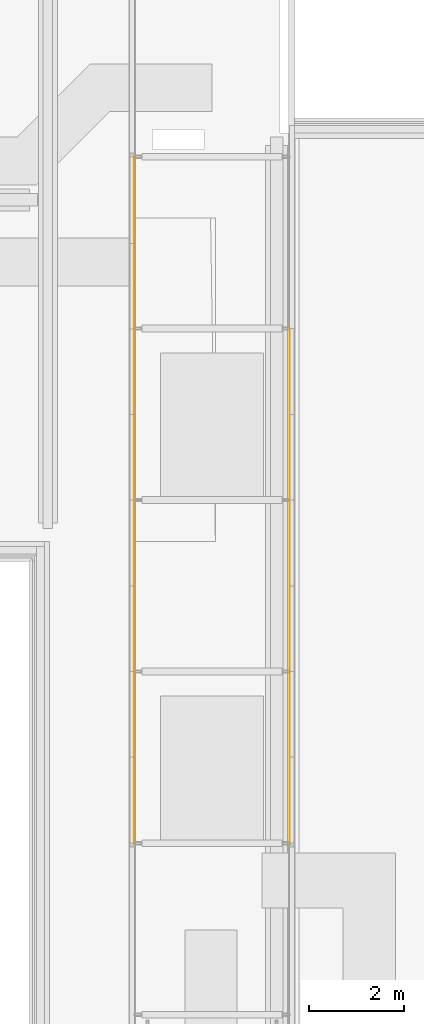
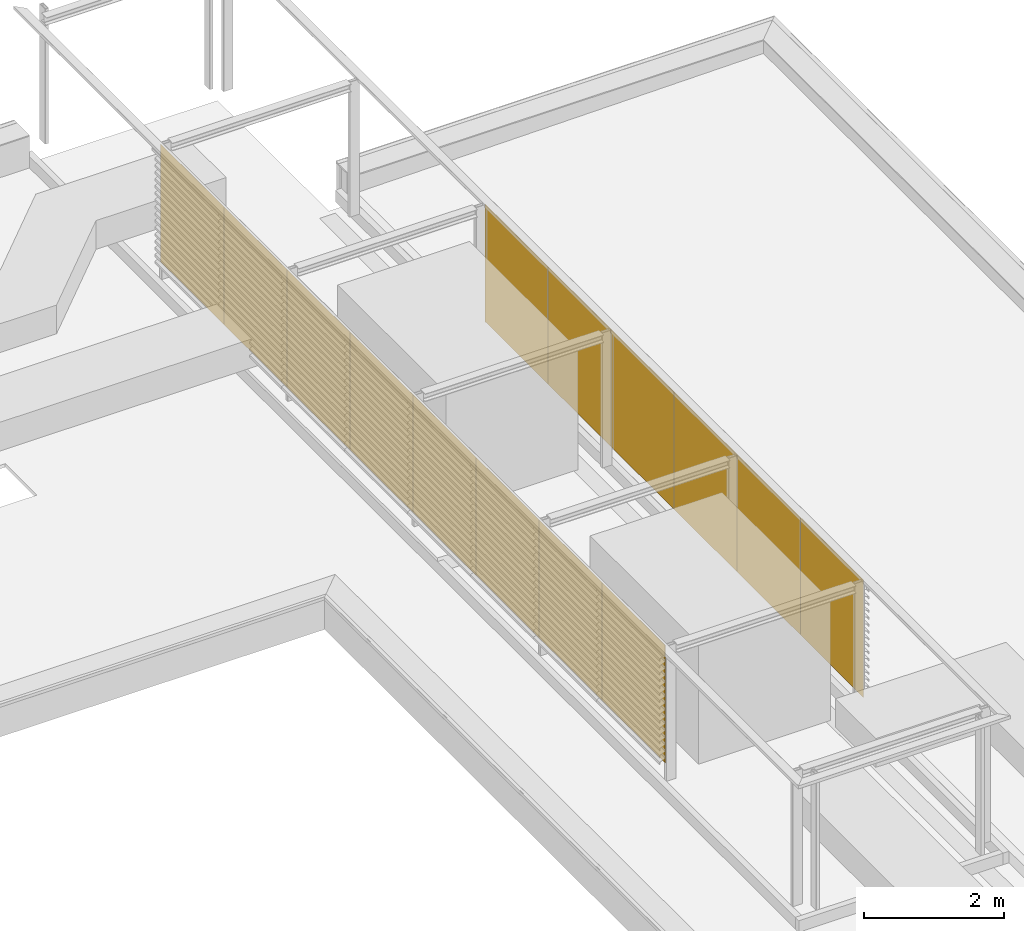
# One storey, part 20 of 32: 14 curtain walls, 4 elements without a shape of their own.
"""IFC2X3 building model written with IfcOpenShell, lengths in millimetres."""

from ifc_helpers import new_model, entity, si_unit, converted_unit, derived_unit, direction, frame, frame_2d, origin, origin_2d_with_axis, place, context, subcontext, project, spatial, rectangle, extrude, material, layer, layer_set, layer_usage, type_object, element, aggregate, save


model = new_model("IFC2X3")

# Units and contexts
model_context = context("Model", 3, precision=0.01, world=origin(), true_north=direction((6.123031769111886e-17, 1.0)))
body_context = subcontext(model_context, "Body", "Model", "MODEL_VIEW")
ifc_project = project(units=[si_unit("LENGTHUNIT", "METRE", prefix="MILLI"), si_unit("AREAUNIT", "SQUARE_METRE"), si_unit("VOLUMEUNIT", "CUBIC_METRE"), converted_unit("PLANEANGLEUNIT", "DEGREE", entity("IfcRatioMeasure", 0.017453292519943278), si_unit("PLANEANGLEUNIT", "RADIAN"), dimensions=[0, 0, 0, 0, 0, 0, 0]), si_unit("MASSUNIT", "GRAM", prefix="KILO"), derived_unit("MASSDENSITYUNIT", [(si_unit("MASSUNIT", "GRAM", prefix="KILO"), 1), (si_unit("LENGTHUNIT", "METRE"), -3)]), derived_unit("IONCONCENTRATIONUNIT", [(si_unit("MASSUNIT", "GRAM", prefix="KILO"), 1), (si_unit("LENGTHUNIT", "METRE"), -3)]), derived_unit("MOMENTOFINERTIAUNIT", [(si_unit("LENGTHUNIT", "METRE"), 4)]), si_unit("TIMEUNIT", "SECOND"), si_unit("FREQUENCYUNIT", "HERTZ"), si_unit("THERMODYNAMICTEMPERATUREUNIT", "DEGREE_CELSIUS"), derived_unit("THERMALTRANSMITTANCEUNIT", [(si_unit("MASSUNIT", "GRAM", prefix="KILO"), 1), (si_unit("THERMODYNAMICTEMPERATUREUNIT", "KELVIN"), -1), (si_unit("TIMEUNIT", "SECOND"), -3)]), derived_unit("THERMALCONDUCTANCEUNIT", [(si_unit("MASSUNIT", "GRAM", prefix="KILO"), 1), (si_unit("THERMODYNAMICTEMPERATUREUNIT", "KELVIN"), -1), (si_unit("TIMEUNIT", "SECOND"), -3), (si_unit("LENGTHUNIT", "METRE"), 1)]), derived_unit("VOLUMETRICFLOWRATEUNIT", [(si_unit("LENGTHUNIT", "METRE"), 3), (si_unit("TIMEUNIT", "SECOND"), -1)]), derived_unit("MASSFLOWRATEUNIT", [(si_unit("MASSUNIT", "GRAM", prefix="KILO"), 1), (si_unit("TIMEUNIT", "SECOND"), -1)]), derived_unit("ROTATIONALFREQUENCYUNIT", [(si_unit("TIMEUNIT", "SECOND"), -1)]), si_unit("ELECTRICCURRENTUNIT", "AMPERE"), si_unit("ELECTRICVOLTAGEUNIT", "VOLT"), si_unit("POWERUNIT", "WATT"), si_unit("FORCEUNIT", "NEWTON", prefix="KILO"), si_unit("ILLUMINANCEUNIT", "LUX"), si_unit("LUMINOUSFLUXUNIT", "LUMEN"), si_unit("LUMINOUSINTENSITYUNIT", "CANDELA"), derived_unit("USERDEFINED", [(si_unit("MASSUNIT", "GRAM", prefix="KILO"), -1), (si_unit("LENGTHUNIT", "METRE"), -2), (si_unit("TIMEUNIT", "SECOND"), 3), (si_unit("LUMINOUSFLUXUNIT", "LUMEN"), 1)]), derived_unit("USERDEFINED", [(si_unit("MASSUNIT", "GRAM", prefix="KILO"), 1), (si_unit("TIMEUNIT", "SECOND"), -3), (si_unit("LENGTHUNIT", "METRE"), 3), (si_unit("ELECTRICCURRENTUNIT", "AMPERE"), -2)]), derived_unit("SOUNDPOWERUNIT", [(si_unit("MASSUNIT", "GRAM", prefix="KILO"), 1), (si_unit("TIMEUNIT", "SECOND"), -3), (si_unit("LENGTHUNIT", "METRE"), 2)]), derived_unit("SOUNDPRESSUREUNIT", [(si_unit("MASSUNIT", "GRAM", prefix="KILO"), 1), (si_unit("LENGTHUNIT", "METRE"), -1), (si_unit("TIMEUNIT", "SECOND"), -2)]), derived_unit("LINEARVELOCITYUNIT", [(si_unit("LENGTHUNIT", "METRE"), 1), (si_unit("TIMEUNIT", "SECOND"), -1)]), si_unit("PRESSUREUNIT", "PASCAL"), derived_unit("USERDEFINED", [(si_unit("MASSUNIT", "GRAM", prefix="KILO"), 1), (si_unit("LENGTHUNIT", "METRE"), -2), (si_unit("TIMEUNIT", "SECOND"), -2)]), derived_unit("LINEARFORCEUNIT", [(si_unit("MASSUNIT", "GRAM", prefix="KILO"), 1), (si_unit("TIMEUNIT", "SECOND"), -2)]), derived_unit("PLANARFORCEUNIT", [(si_unit("MASSUNIT", "GRAM", prefix="KILO"), 1), (si_unit("LENGTHUNIT", "METRE"), -1), (si_unit("TIMEUNIT", "SECOND"), -2)]), derived_unit("SPECIFICHEATCAPACITYUNIT", [(si_unit("THERMODYNAMICTEMPERATUREUNIT", "KELVIN"), -1), (si_unit("LENGTHUNIT", "METRE"), 2), (si_unit("TIMEUNIT", "SECOND"), -2)]), derived_unit("HEATINGVALUEUNIT", [(si_unit("LENGTHUNIT", "METRE"), 2), (si_unit("TIMEUNIT", "SECOND"), -2)]), derived_unit("VAPORPERMEABILITYUNIT", [(si_unit("LENGTHUNIT", "METRE"), -1), (si_unit("TIMEUNIT", "SECOND"), 1)]), derived_unit("DYNAMICVISCOSITYUNIT", [(si_unit("MASSUNIT", "GRAM", prefix="KILO"), 1), (si_unit("TIMEUNIT", "SECOND"), -1), (si_unit("LENGTHUNIT", "METRE"), -1)]), derived_unit("THERMALEXPANSIONCOEFFICIENTUNIT", [(si_unit("THERMODYNAMICTEMPERATUREUNIT", "KELVIN"), -1)]), derived_unit("MODULUSOFELASTICITYUNIT", [(si_unit("MASSUNIT", "GRAM", prefix="KILO"), 1), (si_unit("LENGTHUNIT", "METRE"), -1), (si_unit("TIMEUNIT", "SECOND"), -2)]), derived_unit("ISOTHERMALMOISTURECAPACITYUNIT", [(si_unit("LENGTHUNIT", "METRE"), 3), (si_unit("MASSUNIT", "GRAM", prefix="KILO"), -1)]), derived_unit("MOISTUREDIFFUSIVITYUNIT", [(si_unit("TIMEUNIT", "SECOND"), -1), (si_unit("LENGTHUNIT", "METRE"), 2)])], contexts=[model_context])

# Site, building, storey
site_placement = place(None, frame((0.0, 300.0, 0.0)))
site = spatial("IfcSite", under=ifc_project, at=site_placement, Name="<Kadastrale nummers>", CompositionType="ELEMENT")
building_placement = place(site_placement, origin())
building = spatial("IfcBuilding", under=site, at=building_placement, CompositionType="ELEMENT")
storey_placement = place(building_placement, frame((0.0, 0.0, 7150.000035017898)))
storey = spatial("IfcBuildingStorey", under=building, at=storey_placement, Name="02 tweede verdieping", CompositionType="ELEMENT", Elevation=7150.000035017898)

# Curtain walls
curtain_wall_type_1 = type_object("IfcCurtainWallType", Name="Curtain Wall:NLRS_21_CWA_lamellenwand Linius - L.120 met LD.0065_Storax", PredefinedType="NOTDEFINED")
curtain_wall_1_placement = place(storey_placement, frame((0.0, 0.0, -7150.000035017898)))
curtain_wall_1 = element("IfcCurtainWall", 1, at=curtain_wall_1_placement, inside=storey, type_object=curtain_wall_type_1, Name="Curtain Wall:NLRS_21_CWA_lamellenwand Linius - L.120 met LD.0065_Storax", ObjectType="Curtain Wall:NLRS_21_CWA_lamellenwand Linius - L.120 met LD.0065_Storax")
ifc_material = material(Name="STAAL_RAL 7006")
ifc_layer = layer(ifc_material, 2.0)
ifc_layer_set = layer_set([ifc_layer], Name="Basic Wall:NLRS_21_WA_lamellenwand Linius - L.120_Storax")
ifc_layer_usage_1 = layer_usage(ifc_layer_set, "AXIS2", "POSITIVE", -1.0)
curtain_wall_type_2 = type_object("IfcCurtainWallType", Name="Basic Wall:NLRS_21_WA_lamellenwand Linius - L.120_Storax", PredefinedType="NOTDEFINED", material=ifc_layer_set)
curtain_wall_2_placement = place(storey_placement, frame((41676.0, 38995.0, 500.0), z_axis=(0.0, 0.0, 1.0), x_axis=(0.0, 1.0, 0.0)))
curtain_wall_2 = element("IfcCurtainWall", 2, at=curtain_wall_2_placement, type_object=curtain_wall_type_2, material=ifc_layer_usage_1, Name="Basic Wall:NLRS_21_WA_lamellenwand Linius - L.120_Storax", ObjectType="Basic Wall:NLRS_21_WA_lamellenwand Linius - L.120_Storax", context=body_context, shape_type="SweptSolid", body=[
    extrude(rectangle(XDim=1.9999999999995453, YDim=1802.5000000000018, at=frame_2d((0.0, 2.2168933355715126e-12), x_axis=(1.0, 0.0))), frame((901.2500000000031, 0.0, 0.0), z_axis=(0.0, 0.0, 1.0), x_axis=(0.0, 1.0, 0.0)), (0.0, 0.0, 1.0), 2049.999964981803),
])
curtain_wall_3_placement = place(storey_placement, frame((41676.0, 40797.49999999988, 500.0), z_axis=(0.0, 0.0, 1.0), x_axis=(0.0, 1.0, 0.0)))
curtain_wall_3 = element("IfcCurtainWall", 3, at=curtain_wall_3_placement, type_object=curtain_wall_type_2, material=ifc_layer_usage_1, Name="Basic Wall:NLRS_21_WA_lamellenwand Linius - L.120_Storax", ObjectType="Basic Wall:NLRS_21_WA_lamellenwand Linius - L.120_Storax", context=body_context, shape_type="SweptSolid", body=[
    extrude(rectangle(XDim=1.9999999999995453, YDim=1802.4999999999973, at=origin_2d_with_axis()), frame((901.2499999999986, 0.0, 0.0), z_axis=(0.0, 0.0, 1.0), x_axis=(0.0, 1.0, 0.0)), (0.0, 0.0, 1.0), 2049.999964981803),
])
aggregate(curtain_wall_1, [curtain_wall_2, curtain_wall_3])

curtain_wall_4_placement = place(storey_placement, frame((0.0, 0.0, -7150.000035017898)))
curtain_wall_4 = element("IfcCurtainWall", 4, at=curtain_wall_4_placement, inside=storey, type_object=curtain_wall_type_1, Name="Curtain Wall:NLRS_21_CWA_lamellenwand Linius - L.120 met LD.0065_Storax", ObjectType="Curtain Wall:NLRS_21_CWA_lamellenwand Linius - L.120 met LD.0065_Storax")
ifc_layer_usage_2 = layer_usage(ifc_layer_set, "AXIS2", "NEGATIVE", 1.0)
curtain_wall_5_placement = place(storey_placement, frame((41676.0, 38995.0, 500.0), z_axis=(0.0, 0.0, 1.0), x_axis=(0.0, -1.0, 0.0)))
curtain_wall_5 = element("IfcCurtainWall", 5, at=curtain_wall_5_placement, type_object=curtain_wall_type_2, material=ifc_layer_usage_2, Name="Basic Wall:NLRS_21_WA_lamellenwand Linius - L.120_Storax", ObjectType="Basic Wall:NLRS_21_WA_lamellenwand Linius - L.120_Storax", context=body_context, shape_type="SweptSolid", body=[
    extrude(rectangle(XDim=1.9999999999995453, YDim=1797.5000001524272, at=frame_2d((0.0, 2.1600499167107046e-12), x_axis=(1.0, 0.0))), frame((898.7500000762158, 0.0, 0.0), z_axis=(0.0, 0.0, 1.0), x_axis=(0.0, 1.0, 0.0)), (0.0, 0.0, 1.0), 2049.999964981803),
])
curtain_wall_6_placement = place(storey_placement, frame((41676.0, 37197.49999984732, 500.0), z_axis=(0.0, 0.0, 1.0), x_axis=(0.0, -1.0, 0.0)))
curtain_wall_6 = element("IfcCurtainWall", 6, at=curtain_wall_6_placement, type_object=curtain_wall_type_2, material=ifc_layer_usage_2, Name="Basic Wall:NLRS_21_WA_lamellenwand Linius - L.120_Storax", ObjectType="Basic Wall:NLRS_21_WA_lamellenwand Linius - L.120_Storax", context=body_context, shape_type="SweptSolid", body=[
    extrude(rectangle(XDim=1.9999999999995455, YDim=1797.499999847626, at=frame_2d((-4.331535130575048e-12, 4.376943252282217e-12), x_axis=(1.0, 0.0))), frame((898.7499999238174, 0.0, 0.0), z_axis=(0.0, 0.0, 1.0), x_axis=(0.0, 1.0, 0.0)), (0.0, 0.0, 1.0), 2049.999964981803),
])
curtain_wall_7_placement = place(storey_placement, frame((41676.0, 35400.0, 500.0), z_axis=(0.0, 0.0, 1.0), x_axis=(0.0, -1.0, 0.0)))
curtain_wall_7 = element("IfcCurtainWall", 7, at=curtain_wall_7_placement, type_object=curtain_wall_type_2, material=ifc_layer_usage_2, Name="Basic Wall:NLRS_21_WA_lamellenwand Linius - L.120_Storax", ObjectType="Basic Wall:NLRS_21_WA_lamellenwand Linius - L.120_Storax", context=body_context, shape_type="SweptSolid", body=[
    extrude(rectangle(XDim=1.9999999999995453, YDim=1797.4999998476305, at=frame_2d((0.0, -2.1600499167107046e-12), x_axis=(1.0, 0.0))), frame((898.7499999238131, 0.0, 0.0), z_axis=(0.0, 0.0, 1.0), x_axis=(0.0, 1.0, 0.0)), (0.0, 0.0, 1.0), 2049.999964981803),
])
curtain_wall_8_placement = place(storey_placement, frame((41676.0, 33602.50000015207, 500.0), z_axis=(0.0, 0.0, 1.0), x_axis=(0.0, -1.0, 0.0)))
curtain_wall_8 = element("IfcCurtainWall", 8, at=curtain_wall_8_placement, type_object=curtain_wall_type_2, material=ifc_layer_usage_2, Name="Basic Wall:NLRS_21_WA_lamellenwand Linius - L.120_Storax", ObjectType="Basic Wall:NLRS_21_WA_lamellenwand Linius - L.120_Storax", context=body_context, shape_type="SweptSolid", body=[
    extrude(rectangle(XDim=1.9999999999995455, YDim=1797.5000001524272, at=frame_2d((-4.331535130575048e-12, 2.1600499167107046e-12), x_axis=(1.0, 0.0))), frame((898.7500000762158, 0.0, 0.0), z_axis=(0.0, 0.0, 1.0), x_axis=(0.0, 1.0, 0.0)), (0.0, 0.0, 1.0), 2049.999964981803),
])
aggregate(curtain_wall_4, [curtain_wall_5, curtain_wall_6, curtain_wall_7, curtain_wall_8])

curtain_wall_9_placement = place(storey_placement, frame((0.0, 0.0, -7150.000035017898)))
curtain_wall_9 = element("IfcCurtainWall", 9, at=curtain_wall_9_placement, inside=storey, type_object=curtain_wall_type_1, Name="Curtain Wall:NLRS_21_CWA_lamellenwand Linius - L.120 met LD.0065_Storax", ObjectType="Curtain Wall:NLRS_21_CWA_lamellenwand Linius - L.120 met LD.0065_Storax")
curtain_wall_10_placement = place(storey_placement, frame((38414.0, 38995.0, 500.0), z_axis=(0.0, 0.0, 1.0), x_axis=(0.0, 1.0, 0.0)))
curtain_wall_10 = element("IfcCurtainWall", 10, at=curtain_wall_10_placement, type_object=curtain_wall_type_2, material=ifc_layer_usage_2, Name="Basic Wall:NLRS_21_WA_lamellenwand Linius - L.120_Storax", ObjectType="Basic Wall:NLRS_21_WA_lamellenwand Linius - L.120_Storax", context=body_context, shape_type="SweptSolid", body=[
    extrude(rectangle(XDim=1.9999999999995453, YDim=1797.5000001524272, at=frame_2d((0.0, -2.1600499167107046e-12), x_axis=(1.0, 0.0))), frame((898.7500000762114, 0.0, 0.0), z_axis=(0.0, 0.0, 1.0), x_axis=(0.0, 1.0, 0.0)), (0.0, 0.0, 1.0), 2049.999964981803),
])
curtain_wall_11_placement = place(storey_placement, frame((38414.0, 40792.500000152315, 500.0), z_axis=(0.0, 0.0, 1.0), x_axis=(0.0, 1.0, 0.0)))
curtain_wall_11 = element("IfcCurtainWall", 11, at=curtain_wall_11_placement, type_object=curtain_wall_type_2, material=ifc_layer_usage_2, Name="Basic Wall:NLRS_21_WA_lamellenwand Linius - L.120_Storax", ObjectType="Basic Wall:NLRS_21_WA_lamellenwand Linius - L.120_Storax", context=body_context, shape_type="SweptSolid", body=[
    extrude(rectangle(XDim=1.9999999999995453, YDim=1797.499999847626, at=frame_2d((2.165712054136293e-12, 4.376943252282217e-12), x_axis=(1.0, 0.0))), frame((898.7499999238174, 0.0, 0.0), z_axis=(0.0, 0.0, 1.0), x_axis=(0.0, 1.0, 0.0)), (0.0, 0.0, 1.0), 2049.999964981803),
])
curtain_wall_12_placement = place(storey_placement, frame((38414.0, 42590.0, 500.0), z_axis=(0.0, 0.0, 1.0), x_axis=(0.0, 1.0, 0.0)))
curtain_wall_12 = element("IfcCurtainWall", 12, at=curtain_wall_12_placement, type_object=curtain_wall_type_2, material=ifc_layer_usage_2, Name="Basic Wall:NLRS_21_WA_lamellenwand Linius - L.120_Storax", ObjectType="Basic Wall:NLRS_21_WA_lamellenwand Linius - L.120_Storax", context=body_context, shape_type="SweptSolid", body=[
    extrude(rectangle(XDim=1.9999999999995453, YDim=1797.499999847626, at=frame_2d((0.0, 4.376943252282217e-12), x_axis=(1.0, 0.0))), frame((898.7499999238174, 0.0, 0.0), z_axis=(0.0, 0.0, 1.0), x_axis=(0.0, 1.0, 0.0)), (0.0, 0.0, 1.0), 2049.999964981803),
])
curtain_wall_13_placement = place(storey_placement, frame((38414.0, 44387.49999984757, 500.0), z_axis=(0.0, 0.0, 1.0), x_axis=(0.0, 1.0, 0.0)))
curtain_wall_13 = element("IfcCurtainWall", 13, at=curtain_wall_13_placement, type_object=curtain_wall_type_2, material=ifc_layer_usage_2, Name="Basic Wall:NLRS_21_WA_lamellenwand Linius - L.120_Storax", ObjectType="Basic Wall:NLRS_21_WA_lamellenwand Linius - L.120_Storax", context=body_context, shape_type="SweptSolid", body=[
    extrude(rectangle(XDim=1.9999999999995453, YDim=1807.5000001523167, at=frame_2d((0.0, 4.320099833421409e-12), x_axis=(1.0, 0.0))), frame((903.7500000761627, 0.0, 0.0), z_axis=(0.0, 0.0, 1.0), x_axis=(0.0, 1.0, 0.0)), (0.0, 0.0, 1.0), 2049.999964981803),
])
aggregate(curtain_wall_9, [curtain_wall_10, curtain_wall_11, curtain_wall_12, curtain_wall_13])

curtain_wall_14_placement = place(storey_placement, frame((0.0, 0.0, -7150.000035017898)))
curtain_wall_14 = element("IfcCurtainWall", 14, at=curtain_wall_14_placement, inside=storey, type_object=curtain_wall_type_1, Name="Curtain Wall:NLRS_21_CWA_lamellenwand Linius - L.120 met LD.0065_Storax", ObjectType="Curtain Wall:NLRS_21_CWA_lamellenwand Linius - L.120 met LD.0065_Storax")
curtain_wall_15_placement = place(storey_placement, frame((38414.0, 38995.0, 500.0), z_axis=(0.0, 0.0, 1.0), x_axis=(0.0, -1.0, 0.0)))
curtain_wall_15 = element("IfcCurtainWall", 15, at=curtain_wall_15_placement, type_object=curtain_wall_type_2, material=ifc_layer_usage_1, Name="Basic Wall:NLRS_21_WA_lamellenwand Linius - L.120_Storax", ObjectType="Basic Wall:NLRS_21_WA_lamellenwand Linius - L.120_Storax", context=body_context, shape_type="SweptSolid", body=[
    extrude(rectangle(XDim=1.9999999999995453, YDim=1797.5000001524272, at=frame_2d((-2.165712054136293e-12, 2.1600499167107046e-12), x_axis=(1.0, 0.0))), frame((898.7500000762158, 0.0, 0.0), z_axis=(0.0, 0.0, 1.0), x_axis=(0.0, 1.0, 0.0)), (0.0, 0.0, 1.0), 2049.999964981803),
])
curtain_wall_16_placement = place(storey_placement, frame((38414.0, 37197.49999984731, 500.0), z_axis=(0.0, 0.0, 1.0), x_axis=(0.0, -1.0, 0.0)))
curtain_wall_16 = element("IfcCurtainWall", 16, at=curtain_wall_16_placement, type_object=curtain_wall_type_2, material=ifc_layer_usage_1, Name="Basic Wall:NLRS_21_WA_lamellenwand Linius - L.120_Storax", ObjectType="Basic Wall:NLRS_21_WA_lamellenwand Linius - L.120_Storax", context=body_context, shape_type="SweptSolid", body=[
    extrude(rectangle(XDim=1.9999999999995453, YDim=1797.499999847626, at=frame_2d((2.165712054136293e-12, -4.376943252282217e-12), x_axis=(1.0, 0.0))), frame((898.7499999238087, 0.0, 0.0), z_axis=(0.0, 0.0, 1.0), x_axis=(0.0, 1.0, 0.0)), (0.0, 0.0, 1.0), 2049.999964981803),
])
curtain_wall_17_placement = place(storey_placement, frame((38414.0, 35400.0, 500.0), z_axis=(0.0, 0.0, 1.0), x_axis=(0.0, -1.0, 0.0)))
curtain_wall_17 = element("IfcCurtainWall", 17, at=curtain_wall_17_placement, type_object=curtain_wall_type_2, material=ifc_layer_usage_1, Name="Basic Wall:NLRS_21_WA_lamellenwand Linius - L.120_Storax", ObjectType="Basic Wall:NLRS_21_WA_lamellenwand Linius - L.120_Storax", context=body_context, shape_type="SweptSolid", body=[
    extrude(rectangle(XDim=1.9999999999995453, YDim=1797.4999998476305, at=frame_2d((2.165712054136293e-12, 2.1600499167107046e-12), x_axis=(1.0, 0.0))), frame((898.7499999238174, 0.0, 0.0), z_axis=(0.0, 0.0, 1.0), x_axis=(0.0, 1.0, 0.0)), (0.0, 0.0, 1.0), 2049.999964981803),
])
curtain_wall_18_placement = place(storey_placement, frame((38414.0, 33602.500000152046, 500.0), z_axis=(0.0, 0.0, 1.0), x_axis=(0.0, -1.0, 0.0)))
curtain_wall_18 = element("IfcCurtainWall", 18, at=curtain_wall_18_placement, type_object=curtain_wall_type_2, material=ifc_layer_usage_1, Name="Basic Wall:NLRS_21_WA_lamellenwand Linius - L.120_Storax", ObjectType="Basic Wall:NLRS_21_WA_lamellenwand Linius - L.120_Storax", context=body_context, shape_type="SweptSolid", body=[
    extrude(rectangle(XDim=1.9999999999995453, YDim=1797.5000001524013, at=frame_2d((2.165712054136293e-12, 2.1600499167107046e-12), x_axis=(1.0, 0.0))), frame((898.7500000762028, 0.0, 0.0), z_axis=(0.0, 0.0, 1.0), x_axis=(0.0, 1.0, 0.0)), (0.0, 0.0, 1.0), 2049.999964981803),
])
aggregate(curtain_wall_14, [curtain_wall_15, curtain_wall_16, curtain_wall_17, curtain_wall_18])

save(model, "model.ifc")
